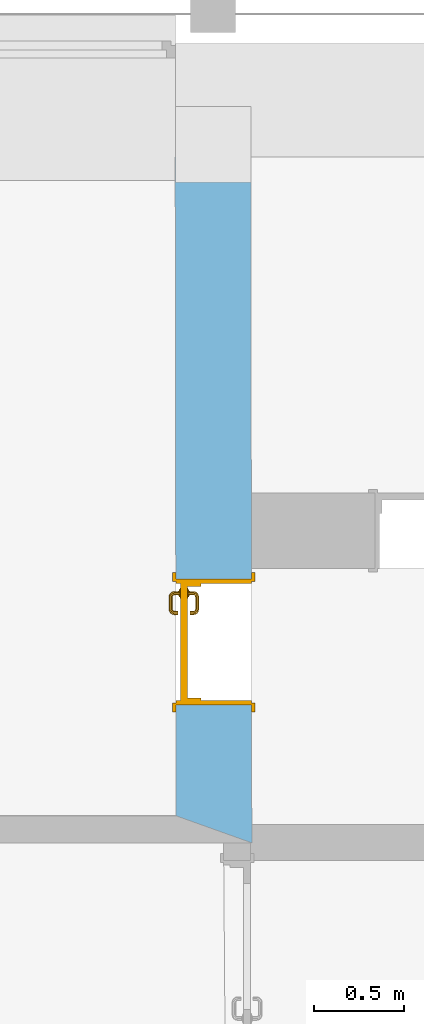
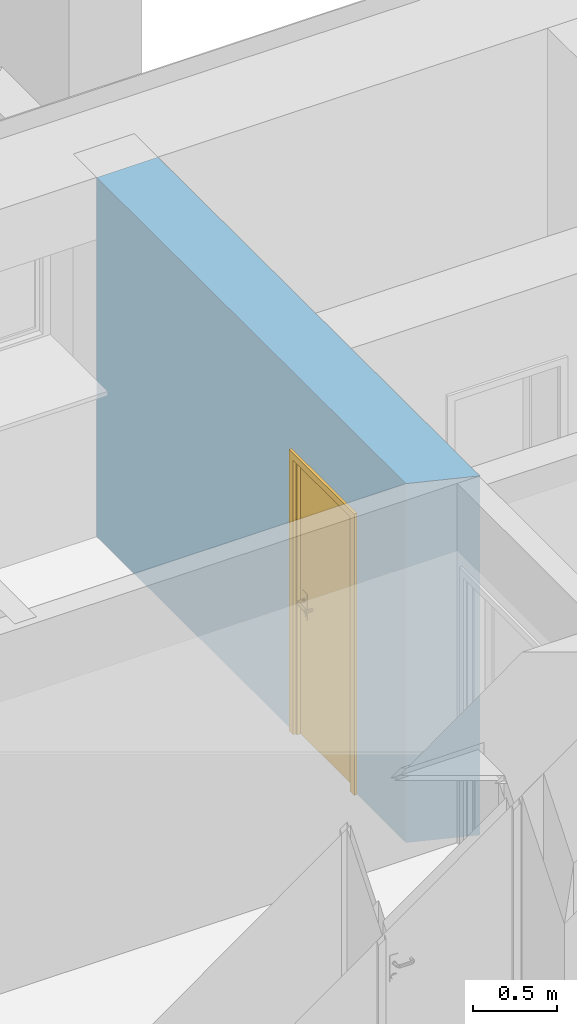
# One storey, part 46 of 127: 1 door, 1 opening, plus 1 element that does not belong to this part.
"""IFC2X3 building model written with IfcOpenShell, lengths in millimetres."""

from ifc_helpers import new_model, entity, si_unit, converted_unit, derived_unit, money_unit, direction, frame, origin_with_axes, origin_2d_with_axis, place, context, subcontext, project, spatial, polyline, rectangle, outline, extrude, open_shell, faceted_brep, surface_model, material, layer, layer_set, layer_usage, type_object, element, fill, save


model = new_model("IFC2X3")

# Units and contexts
model_context = context("Model", 3, precision=1e-05, world=origin_with_axes(), true_north=direction((0.0, 1.0)))
body_context = subcontext(model_context, "Body", "Model", "MODEL_VIEW")
ifc_project = project(units=[si_unit("LENGTHUNIT", "METRE", prefix="MILLI"), si_unit("AREAUNIT", "SQUARE_METRE"), si_unit("VOLUMEUNIT", "CUBIC_METRE"), converted_unit("PLANEANGLEUNIT", "DEGREE", entity("IfcPlaneAngleMeasure", 0.0174532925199), si_unit("PLANEANGLEUNIT", "RADIAN"), dimensions=[0, 0, 0, 0, 0, 0, 0]), si_unit("SOLIDANGLEUNIT", "STERADIAN"), money_unit("EUR"), converted_unit("TIMEUNIT", "Year", entity("IfcTimeMeasure", 31556926.0), si_unit("TIMEUNIT", "SECOND"), dimensions=[0, 0, 1, 0, 0, 0, 0]), si_unit("MASSUNIT", "GRAM", prefix="KILO"), si_unit("THERMODYNAMICTEMPERATUREUNIT", "DEGREE_CELSIUS"), si_unit("LUMINOUSINTENSITYUNIT", "LUMEN"), si_unit("ENERGYUNIT", "JOULE", prefix="MEGA"), derived_unit("THERMALCONDUCTANCEUNIT", [(si_unit("POWERUNIT", "WATT"), 1), (si_unit("LENGTHUNIT", "METRE"), -1), (si_unit("THERMODYNAMICTEMPERATUREUNIT", "KELVIN"), -1)]), derived_unit("SPECIFICHEATCAPACITYUNIT", [(si_unit("ENERGYUNIT", "JOULE"), 1), (si_unit("MASSUNIT", "GRAM", prefix="KILO"), -1), (si_unit("THERMODYNAMICTEMPERATUREUNIT", "KELVIN"), -1)]), derived_unit("MASSDENSITYUNIT", [(si_unit("MASSUNIT", "GRAM", prefix="KILO"), 1), (si_unit("VOLUMEUNIT", "CUBIC_METRE"), -1)])], contexts=[model_context])

# Site, building, storey
site_placement = place(None, origin_with_axes())
site = spatial("IfcSite", under=ifc_project, at=site_placement, Name="Site", CompositionType="ELEMENT")
building_placement = place(site_placement, origin_with_axes())
building = spatial("IfcBuilding", under=site, at=building_placement, Name="Building", CompositionType="ELEMENT")
storey_placement = place(building_placement, origin_with_axes())
storey = spatial("IfcBuildingStorey", under=building, at=storey_placement, Name="1 KORRUS", CompositionType="ELEMENT", Elevation=0.0)

# Wall, opening, door
ifc_material = material(Name="Kivi -Ol.Olev Konstruktsioon")
ifc_layer = layer(ifc_material, 420.0, ventilated="UNKNOWN")
ifc_layer_set = layer_set([ifc_layer], Name="ol.olev ss 420")
ifc_layer_usage = layer_usage(ifc_layer_set, "AXIS2", "POSITIVE", 0.0)
wall_type = type_object("IfcWallType", Name="SW - 036", PredefinedType="NOTDEFINED")
wall_placement = place(storey_placement, frame((61158.906204, 42953.8718916, 0.0), z_axis=(0.0, 0.0, 1.0), x_axis=(-0.00143580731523, 0.999998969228, 0.0)))
wall = element("IfcWallStandardCase", 1, at=wall_placement, inside=storey, type_object=wall_type, material=ifc_layer_usage, Name="ol.olev ss 420", context=body_context, shape_type="SweptSolid", body=[
    extrude(outline(polyline([(-150.000154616, 0.0), (3657.54740359, 0.0), (3658.25491958, 420.0), (0.603039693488, 420.0), (-150.000154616, 0.0)])), origin_with_axes(), (0.0, 0.0, 1.0), 2600.0),
])
opening_placement = place(wall_placement, frame((964.921937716, 1.13686837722e-10, 0.0), z_axis=(0.0, 0.0, 1.0), x_axis=(1.0, 0.0, 0.0)))
opening = element("IfcOpeningElement", 2, at=opening_placement, cuts=wall, Name="Siseuks * Door 22", context=body_context, shape_type="SweptSolid", body=[
    extrude(rectangle(XDim=699.999999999, YDim=2000.0, at=origin_2d_with_axis()), frame((9.09494701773e-10, 280.0, 1000.0), z_axis=(0.0, -1.0, 0.0), x_axis=(-1.0, 0.0, 0.0)), (0.0, 0.0, 1.0), 700.0),
    extrude(rectangle(XDim=700.000000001, YDim=2000.0, at=origin_2d_with_axis()), frame((-9.09494701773e-10, 280.0, 1000.0), z_axis=(0.0, 1.0, 0.0), x_axis=(-1.0, 0.0, 0.0)), (0.0, 0.0, 1.0), 560.0),
    extrude(rectangle(XDim=774.0, YDim=2037.0, at=origin_2d_with_axis()), frame((0.0, 420.0, 1018.5), z_axis=(0.0, 1.0, 0.0), x_axis=(-1.0, 0.0, 0.0)), (0.0, 0.0, 1.0), 700.0),
    extrude(rectangle(XDim=774.000000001, YDim=2037.0, at=origin_2d_with_axis()), frame((9.09494701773e-10, 0.0, 1018.5), z_axis=(0.0, -1.0, 0.0), x_axis=(-1.0, 0.0, 0.0)), (0.0, 0.0, 1.0), 700.0),
])
door_style = type_object("IfcDoorStyle", Name="SU-B120B   700×2\xa0000", ConstructionType="NOTDEFINED", OperationType="SINGLE_SWING_LEFT", ParameterTakesPrecedence=False, Sizeable=False)
door_placement = place(opening_placement, frame((-350.0, -1.13686837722e-10, 0.0), z_axis=(0.0, 0.0, 1.0), x_axis=(1.0, 0.0, 0.0)))
door = element("IfcDoor", 3, at=door_placement, inside=storey, type_object=door_style, Name="Siseuks * Door 22", OverallHeight=2000.0, OverallWidth=700.0, context=body_context, shape_type="SurfaceModel", body=[
    faceted_brep([(700.000000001, 395.0, 0.0), (675.0, 395.0, 0.0), (675.000000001, 420.0, 0.0), (700.000000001, 420.0, 0.0), (700.000000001, 395.0, 2000.0), (675.0, 395.0, 1975.0), (675.000000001, 420.0, 1975.0), (700.000000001, 420.0, 2000.0)], [[[0, 1, 2, 3]], [[0, 4, 5, 1]], [[1, 5, 6, 2]], [[3, 2, 6, 7]], [[4, 0, 3, 7]], [[5, 4, 7, 6]]]),
    faceted_brep([(0.0, 395.0, 2000.0), (25.0000000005, 395.0, 1975.0), (24.9999999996, 420.0, 1975.0), (0.0, 420.0, 2000.0), (0.0, 395.0, 0.0), (25.0000000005, 395.0, 0.0), (24.9999999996, 420.0, 0.0), (0.0, 420.0, 0.0)], [[[0, 1, 2, 3]], [[0, 4, 5, 1]], [[1, 5, 6, 2]], [[3, 2, 6, 7]], [[4, 0, 3, 7]], [[5, 4, 7, 6]]]),
    faceted_brep([(675.0, 395.0, 1975.0), (25.0000000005, 395.0, 1975.0), (24.9999999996, 420.0, 1975.0), (675.000000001, 420.0, 1975.0), (700.000000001, 395.0, 2000.0), (0.0, 395.0, 2000.0), (0.0, 420.0, 2000.0), (700.000000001, 420.0, 2000.0)], [[[0, 1, 2, 3]], [[0, 4, 5, 1]], [[1, 5, 6, 2]], [[3, 2, 6, 7]], [[4, 0, 3, 7]], [[5, 4, 7, 6]]]),
    faceted_brep([(737.000000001, 439.0, 0.0), (737.000000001, 420.0, 0.0), (687.0, 420.0, 0.0), (687.0, 439.0, 0.0), (737.000000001, 439.0, 2037.0), (737.000000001, 420.0, 2037.0), (687.0, 420.0, 1987.0), (687.0, 439.0, 1987.0)], [[[0, 1, 2, 3]], [[4, 5, 1, 0]], [[1, 5, 6, 2]], [[3, 2, 6, 7]], [[0, 3, 7, 4]], [[7, 6, 5, 4]]]),
    faceted_brep([(-36.9999999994, 439.0, 2037.0), (-37.0000000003, 420.0, 2037.0), (13.0000000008, 420.0, 1987.0), (13.0000000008, 439.0, 1987.0), (-36.9999999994, 439.0, 0.0), (-37.0000000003, 420.0, 0.0), (13.0000000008, 420.0, 0.0), (13.0000000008, 439.0, 0.0)], [[[0, 1, 2, 3]], [[4, 5, 1, 0]], [[1, 5, 6, 2]], [[3, 2, 6, 7]], [[0, 3, 7, 4]], [[7, 6, 5, 4]]]),
    faceted_brep([(737.000000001, 439.0, 2037.0), (737.000000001, 420.0, 2037.0), (687.0, 420.0, 1987.0), (687.0, 439.0, 1987.0), (-36.9999999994, 439.0, 2037.0), (-37.0000000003, 420.0, 2037.0), (13.0000000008, 420.0, 1987.0), (13.0000000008, 439.0, 1987.0)], [[[0, 1, 2, 3]], [[4, 5, 1, 0]], [[1, 5, 6, 2]], [[3, 2, 6, 7]], [[0, 3, 7, 4]], [[7, 6, 5, 4]]]),
    faceted_brep([(700.0, 280.0, 0.0), (700.0, 0.0, 0.0), (675.0, 0.0, 0.0), (675.0, 280.0, 0.0), (700.0, 280.0, 2000.0), (700.0, 0.0, 2000.0), (675.0, 0.0, 1975.0), (675.0, 280.0, 1975.0)], [[[0, 1, 2, 3]], [[4, 5, 1, 0]], [[1, 5, 6, 2]], [[3, 2, 6, 7]], [[0, 3, 7, 4]], [[7, 6, 5, 4]]]),
    faceted_brep([(0.0, 280.0, 2000.0), (9.09494701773e-10, 0.0, 2000.0), (25.0000000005, 0.0, 1975.0), (25.0000000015, 280.0, 1975.0), (0.0, 280.0, 0.0), (9.09494701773e-10, 0.0, 0.0), (25.0000000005, 0.0, 0.0), (25.0000000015, 280.0, 0.0)], [[[0, 1, 2, 3]], [[4, 5, 1, 0]], [[1, 5, 6, 2]], [[3, 2, 6, 7]], [[0, 3, 7, 4]], [[7, 6, 5, 4]]]),
    faceted_brep([(700.0, 280.0, 2000.0), (700.0, 0.0, 2000.0), (675.0, 0.0, 1975.0), (675.0, 280.0, 1975.0), (0.0, 280.0, 2000.0), (9.09494701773e-10, 0.0, 2000.0), (25.0000000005, 0.0, 1975.0), (25.0000000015, 280.0, 1975.0)], [[[0, 1, 2, 3]], [[4, 5, 1, 0]], [[1, 5, 6, 2]], [[3, 2, 6, 7]], [[0, 3, 7, 4]], [[7, 6, 5, 4]]]),
    faceted_brep([(737.000000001, -19.0000000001, 0.0), (687.0, -19.0, 0.0), (687.0, 0.0, 0.0), (737.000000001, 0.0, 0.0), (737.000000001, -19.0000000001, 2037.0), (687.0, -19.0, 1987.0), (687.0, 0.0, 1987.0), (737.000000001, 0.0, 2037.0)], [[[0, 1, 2, 3]], [[0, 4, 5, 1]], [[1, 5, 6, 2]], [[3, 2, 6, 7]], [[4, 0, 3, 7]], [[5, 4, 7, 6]]]),
    faceted_brep([(-36.9999999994, -19.0000000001, 2037.0), (12.9999999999, -19.0000000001, 1987.0), (12.9999999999, 0.0, 1987.0), (-36.9999999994, 0.0, 2037.0), (-36.9999999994, -19.0000000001, 0.0), (12.9999999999, -19.0000000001, 0.0), (12.9999999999, 0.0, 0.0), (-36.9999999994, 0.0, 0.0)], [[[0, 1, 2, 3]], [[0, 4, 5, 1]], [[1, 5, 6, 2]], [[3, 2, 6, 7]], [[4, 0, 3, 7]], [[5, 4, 7, 6]]]),
    faceted_brep([(737.000000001, -19.0000000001, 2037.0), (687.0, -19.0, 1987.0), (687.0, 0.0, 1987.0), (737.000000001, 0.0, 2037.0), (-36.9999999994, -19.0000000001, 2037.0), (12.9999999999, -19.0000000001, 1987.0), (12.9999999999, 0.0, 1987.0), (-36.9999999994, 0.0, 2037.0)], [[[0, 1, 2, 3]], [[0, 4, 5, 1]], [[1, 5, 6, 2]], [[3, 2, 6, 7]], [[4, 0, 3, 7]], [[5, 4, 7, 6]]]),
    faceted_brep([(660.000000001, 355.0, 0.0), (660.000000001, 280.0, 0.0), (660.000000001, 280.0, 1960.0), (660.000000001, 355.0, 1960.0), (672.0, 355.0, 0.0), (672.0, 395.0, 0.0), (700.000000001, 395.0, 0.0), (700.0, 280.0, 0.0), (700.0, 280.0, 1960.0), (672.0, 355.0, 1960.0), (700.000000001, 395.0, 1960.0), (672.0, 395.0, 1960.0)], [[[0, 1, 2, 3]], [[4, 5, 6, 7, 1, 0]], [[1, 7, 8, 2]], [[9, 3, 2, 8, 10, 11]], [[9, 4, 0, 3]], [[11, 5, 4, 9]], [[11, 10, 6, 5]], [[6, 10, 8, 7]]]),
    faceted_brep([(28.0000000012, 355.0, 1960.0), (28.0000000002, 395.0, 1960.0), (0.0, 395.0, 1960.0), (0.0, 280.0, 1960.0), (40.0, 280.0, 1960.0), (40.0000000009, 355.0, 1960.0), (28.0000000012, 355.0, 0.0), (28.0000000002, 395.0, 0.0), (0.0, 395.0, 0.0), (0.0, 280.0, 0.0), (40.0, 280.0, 0.0), (40.0000000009, 355.0, 0.0)], [[[0, 1, 2, 3, 4, 5]], [[0, 6, 7, 1]], [[7, 8, 2, 1]], [[2, 8, 9, 3]], [[3, 9, 10, 4]], [[5, 4, 10, 11]], [[5, 11, 6, 0]], [[6, 11, 10, 9, 8, 7]]]),
    faceted_brep([(672.0, 395.0, 1972.0), (28.0000000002, 395.0, 1972.0), (28.0000000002, 395.0, 1960.0), (0.0, 395.0, 1960.0), (0.0, 395.0, 2000.0), (700.000000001, 395.0, 2000.0), (700.000000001, 395.0, 1960.0), (672.0, 395.0, 1960.0), (672.0, 355.0, 1972.0), (28.0000000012, 355.0, 1972.0), (28.0000000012, 355.0, 1960.0), (40.0000000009, 355.0, 1960.0), (40.0, 280.0, 1960.0), (0.0, 280.0, 1960.0), (0.0, 280.0, 2000.0), (700.0, 280.0, 2000.0), (700.0, 280.0, 1960.0), (672.0, 355.0, 1960.0), (660.000000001, 280.0, 1960.0), (660.000000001, 355.0, 1960.0)], [[[0, 1, 2, 3, 4, 5, 6, 7]], [[0, 8, 9, 1]], [[1, 9, 10, 2]], [[10, 11, 12, 13, 3, 2]], [[4, 3, 13, 14]], [[5, 4, 14, 15]], [[6, 5, 15, 16]], [[17, 7, 6, 16, 18, 19]], [[7, 17, 8, 0]], [[10, 9, 8, 17, 19, 11]], [[19, 18, 12, 11]], [[12, 18, 16, 15, 14, 13]]]),
    faceted_brep([(650.500000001, 355.0, 1060.0), (593.5, 355.0, 1060.0), (593.5, 352.0, 1060.0), (650.5, 352.0, 1060.0), (650.500000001, 355.0, 870.0), (593.5, 355.0, 870.0), (593.5, 352.0, 870.0), (650.5, 352.0, 870.0)], [[[0, 1, 2, 3]], [[0, 4, 5, 1]], [[1, 5, 6, 2]], [[3, 2, 6, 7]], [[4, 0, 3, 7]], [[5, 4, 7, 6]]]),
    surface_model("IfcShellBasedSurfaceModel", [(612.0, 342.0, 1000.0), (614.928932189, 342.0, 992.928932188), (614.928932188, 322.696439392, 992.928932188), (612.0, 322.984914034, 1000.0), (622.0, 342.0, 990.0), (621.999999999, 322.0, 990.0), (613.816790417, 317.105325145, 992.928932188), (611.057796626, 318.248137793, 1000.0), (614.928932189, 342.0, 1007.07106781), (614.928932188, 322.696439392, 1007.07106781), (629.071067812, 342.0, 992.928932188), (629.071067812, 321.303560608, 992.928932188), (620.47759065, 314.346331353, 990.0), (611.044179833, 312.955820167, 992.928932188), (608.932537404, 315.067462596, 1000.0), (613.816790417, 317.105325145, 1007.07106781), (622.0, 342.0, 1010.0), (621.999999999, 322.0, 1010.0), (632.000000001, 342.0, 1000.0), (632.0, 321.015085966, 1000.0), (627.138390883, 311.58733756, 992.928932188), (616.142135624, 307.857864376, 990.0), (606.894674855, 310.183209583, 992.928932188), (605.751862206, 312.942203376, 1000.0), (611.044179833, 312.955820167, 1007.07106781), (620.47759065, 314.346331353, 1010.0), (629.071067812, 342.0, 1007.07106781), (629.071067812, 321.303560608, 1007.07106781), (629.897384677, 310.444524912, 1000.0), (621.240091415, 302.759908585, 992.928932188), (609.653668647, 303.52240935, 990.0), (601.303560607, 309.071067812, 992.928932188), (601.015085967, 312.0, 1000.0), (606.894674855, 310.183209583, 1007.07106781), (616.142135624, 307.857864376, 1010.0), (627.138390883, 311.58733756, 1007.07106781), (623.351733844, 300.648266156, 1000.0), (612.41266244, 296.861609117, 992.928932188), (602.0, 302.0, 990.0), (532.696439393, 309.071067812, 992.928932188), (532.984914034, 312.0, 1000.0), (601.303560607, 309.071067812, 1007.07106781), (609.653668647, 303.52240935, 1010.0), (621.240091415, 302.759908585, 1007.07106781), (613.555475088, 294.102615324, 1000.0), (602.696439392, 294.928932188, 992.928932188), (532.0, 302.0, 990.0), (527.105325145, 310.183209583, 992.928932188), (528.248137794, 312.942203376, 1000.0), (532.696439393, 309.071067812, 1007.07106781), (602.0, 302.0, 1010.0), (612.41266244, 296.861609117, 1007.07106781), (602.984914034, 292.0, 1000.0), (531.303560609, 294.928932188, 992.928932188), (524.346331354, 303.52240935, 990.0), (522.955820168, 312.955820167, 992.928932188), (525.067462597, 315.067462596, 1000.0), (527.105325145, 310.183209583, 1007.07106781), (532.0, 302.0, 1010.0), (602.696439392, 294.928932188, 1007.07106781), (531.015085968, 292.0, 1000.0), (521.58733756, 296.861609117, 992.928932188), (517.857864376, 307.857864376, 990.0), (520.183209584, 317.105325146, 992.928932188), (522.942203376, 318.248137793, 1000.0), (522.955820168, 312.955820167, 1007.07106781), (524.346331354, 303.52240935, 1010.0), (531.303560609, 294.928932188, 1007.07106781), (520.444524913, 294.102615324, 1000.0), (512.759908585, 302.759908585, 992.928932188), (513.52240935, 314.346331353, 990.0), (519.071067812, 322.696439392, 992.928932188), (522.0, 322.984914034, 1000.0), (520.183209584, 317.105325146, 1007.07106781), (517.857864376, 307.857864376, 1010.0), (521.58733756, 296.861609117, 1007.07106781), (510.648266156, 300.648266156, 1000.0), (506.861609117, 311.58733756, 992.928932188), (512.000000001, 322.0, 990.0), (519.071067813, 342.0, 992.928932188), (522.0, 342.0, 1000.0), (519.071067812, 322.696439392, 1007.07106781), (513.52240935, 314.346331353, 1010.0), (512.759908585, 302.759908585, 1007.07106781), (504.102615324, 310.444524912, 1000.0), (504.928932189, 321.303560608, 992.928932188), (512.000000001, 342.0, 990.0), (504.928932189, 342.0, 992.928932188), (502.0, 342.0, 1000.0), (504.928932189, 342.0, 1007.07106781), (512.000000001, 342.0, 1010.0), (519.071067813, 342.0, 1007.07106781), (512.000000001, 322.0, 1010.0), (506.861609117, 311.58733756, 1007.07106781), (501.999999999, 321.015085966, 1000.0), (504.928932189, 321.303560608, 1007.07106781)], [open_shell([[[0, 1, 2, 3]], [[1, 4, 5, 2]], [[3, 2, 6, 7]], [[8, 0, 3, 9]], [[4, 10, 11, 5]], [[2, 5, 12, 6]], [[7, 6, 13, 14]], [[9, 3, 7, 15]], [[16, 8, 9, 17]], [[10, 18, 19, 11]], [[5, 11, 20, 12]], [[6, 12, 21, 13]], [[14, 13, 22, 23]], [[15, 7, 14, 24]], [[17, 9, 15, 25]], [[26, 16, 17, 27]], [[18, 26, 27, 19]], [[11, 19, 28, 20]], [[12, 20, 29, 21]], [[13, 21, 30, 22]], [[23, 22, 31, 32]], [[24, 14, 23, 33]], [[25, 15, 24, 34]], [[27, 17, 25, 35]], [[19, 27, 35, 28]], [[20, 28, 36, 29]], [[21, 29, 37, 30]], [[22, 30, 38, 31]], [[32, 31, 39, 40]], [[33, 23, 32, 41]], [[34, 24, 33, 42]], [[35, 25, 34, 43]], [[28, 35, 43, 36]], [[29, 36, 44, 37]], [[30, 37, 45, 38]], [[31, 38, 46, 39]], [[40, 39, 47, 48]], [[41, 32, 40, 49]], [[42, 33, 41, 50]], [[43, 34, 42, 51]], [[36, 43, 51, 44]], [[37, 44, 52, 45]], [[38, 45, 53, 46]], [[39, 46, 54, 47]], [[48, 47, 55, 56]], [[49, 40, 48, 57]], [[50, 41, 49, 58]], [[51, 42, 50, 59]], [[44, 51, 59, 52]], [[45, 52, 60, 53]], [[46, 53, 61, 54]], [[47, 54, 62, 55]], [[56, 55, 63, 64]], [[57, 48, 56, 65]], [[58, 49, 57, 66]], [[59, 50, 58, 67]], [[52, 59, 67, 60]], [[53, 60, 68, 61]], [[54, 61, 69, 62]], [[55, 62, 70, 63]], [[64, 63, 71, 72]], [[65, 56, 64, 73]], [[66, 57, 65, 74]], [[67, 58, 66, 75]], [[60, 67, 75, 68]], [[61, 68, 76, 69]], [[62, 69, 77, 70]], [[63, 70, 78, 71]], [[72, 71, 79, 80]], [[73, 64, 72, 81]], [[74, 65, 73, 82]], [[75, 66, 74, 83]], [[68, 75, 83, 76]], [[69, 76, 84, 77]], [[70, 77, 85, 78]], [[71, 78, 86, 79]], [[80, 79, 86, 87, 88, 89, 90, 91]], [[81, 72, 80, 91]], [[82, 73, 81, 92]], [[83, 74, 82, 93]], [[76, 83, 93, 84]], [[77, 84, 94, 85]], [[78, 85, 87, 86]], [[85, 94, 88, 87]], [[94, 95, 89, 88]], [[95, 92, 90, 89]], [[92, 81, 91, 90]], [[93, 82, 92, 95]], [[84, 93, 95, 94]]])]),
    faceted_brep([(611.607695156, 342.0, 994.0), (610.0, 342.0, 1000.0), (609.000000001, 352.0, 1000.0), (610.741669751, 352.0, 993.5), (616.000000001, 342.0, 989.607695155), (622.0, 342.0, 988.0), (628.000000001, 342.0, 989.607695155), (632.392304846, 342.0, 994.0), (634.000000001, 342.0, 1000.0), (632.392304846, 342.0, 1006.0), (628.000000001, 342.0, 1010.39230485), (622.0, 342.0, 1012.0), (616.000000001, 342.0, 1010.39230485), (611.607695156, 342.0, 1006.0), (610.741669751, 352.0, 1006.5), (615.5, 352.0, 1011.25833025), (622.0, 352.0, 1013.0), (628.5, 352.0, 1011.25833025), (633.25833025, 352.0, 1006.5), (635.000000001, 352.0, 1000.0), (633.25833025, 352.0, 993.5), (628.5, 352.0, 988.741669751), (622.0, 352.0, 987.0), (615.5, 352.0, 988.741669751)], [[[0, 1, 2, 3]], [[1, 0, 4, 5, 6, 7, 8, 9, 10, 11, 12, 13]], [[1, 13, 14, 2]], [[2, 14, 15, 16, 17, 18, 19, 20, 21, 22, 23, 3]], [[4, 0, 3, 23]], [[5, 4, 23, 22]], [[6, 5, 22, 21]], [[7, 6, 21, 20]], [[8, 7, 20, 19]], [[9, 8, 19, 18]], [[10, 9, 18, 17]], [[11, 10, 17, 16]], [[12, 11, 16, 15]], [[13, 12, 15, 14]]]),
    faceted_brep([(604.679491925, 348.0, 895.0), (602.000000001, 348.0, 905.0), (600.000000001, 352.0, 905.0), (602.947441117, 352.0, 894.0), (612.0, 348.0, 887.679491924), (622.0, 348.0, 885.0), (632.000000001, 348.0, 887.679491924), (639.320508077, 348.0, 895.0), (642.000000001, 348.0, 905.0), (639.320508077, 348.0, 915.0), (632.000000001, 348.0, 922.320508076), (622.0, 348.0, 925.0), (612.0, 348.0, 922.320508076), (604.679491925, 348.0, 915.0), (602.947441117, 352.0, 916.0), (611.0, 352.0, 924.052558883), (622.0, 352.0, 927.0), (633.0, 352.0, 924.052558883), (641.052558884, 352.0, 916.0), (644.000000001, 352.0, 905.0), (641.052558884, 352.0, 894.0), (633.0, 352.0, 885.947441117), (622.0, 352.0, 883.0), (611.0, 352.0, 885.947441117)], [[[0, 1, 2, 3]], [[1, 0, 4, 5, 6, 7, 8, 9, 10, 11, 12, 13]], [[1, 13, 14, 2]], [[2, 14, 15, 16, 17, 18, 19, 20, 21, 22, 23, 3]], [[4, 0, 3, 23]], [[5, 4, 23, 22]], [[6, 5, 22, 21]], [[7, 6, 21, 20]], [[8, 7, 20, 19]], [[9, 8, 19, 18]], [[10, 9, 18, 17]], [[11, 10, 17, 16]], [[12, 11, 16, 15]], [[13, 12, 15, 14]]]),
    faceted_brep([(617.050252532, 346.0, 909.050252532), (615.000000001, 346.0, 914.0), (614.0, 348.0, 914.0), (616.343145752, 348.0, 908.343145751), (622.0, 346.0, 907.0), (626.949747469, 346.0, 909.050252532), (629.0, 346.0, 914.0), (626.949747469, 346.0, 918.949747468), (622.0, 346.0, 921.0), (617.050252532, 346.0, 918.949747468), (616.343145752, 348.0, 919.656854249), (622.0, 348.0, 922.0), (627.656854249, 348.0, 919.656854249), (630.0, 348.0, 914.0), (627.656854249, 348.0, 908.343145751), (622.0, 348.0, 906.0)], [[[0, 1, 2, 3]], [[1, 0, 4, 5, 6, 7, 8, 9]], [[1, 9, 10, 2]], [[2, 10, 11, 12, 13, 14, 15, 3]], [[4, 0, 3, 15]], [[5, 4, 15, 14]], [[6, 5, 14, 13]], [[7, 6, 13, 12]], [[8, 7, 12, 11]], [[9, 8, 11, 10]]]),
    faceted_brep([(650.500000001, 395.0, 1060.0), (650.500000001, 398.0, 1060.0), (593.5, 398.0, 1060.0), (593.5, 395.0, 1060.0), (650.500000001, 395.0, 870.0), (650.500000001, 398.0, 870.0), (593.5, 398.0, 870.0), (593.5, 395.0, 870.0)], [[[0, 1, 2, 3]], [[4, 5, 1, 0]], [[1, 5, 6, 2]], [[3, 2, 6, 7]], [[0, 3, 7, 4]], [[7, 6, 5, 4]]]),
    surface_model("IfcShellBasedSurfaceModel", [(612.000000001, 408.0, 1000.0), (612.000000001, 427.015085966, 1000.0), (614.928932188, 427.303560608, 992.928932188), (614.928932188, 408.0, 992.928932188), (614.928932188, 408.0, 1007.07106781), (614.928932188, 427.303560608, 1007.07106781), (611.057796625, 431.751862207, 1000.0), (613.816790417, 432.894674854, 992.928932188), (622.0, 428.0, 990.0), (622.0, 408.0, 990.0), (622.0, 408.0, 1010.0), (622.0, 428.0, 1010.0), (613.816790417, 432.894674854, 1007.07106781), (608.932537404, 434.932537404, 1000.0), (611.044179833, 437.044179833, 992.928932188), (620.477590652, 435.653668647, 990.0), (629.071067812, 428.696439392, 992.928932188), (629.071067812, 408.0, 992.928932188), (629.071067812, 408.0, 1007.07106781), (629.071067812, 428.696439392, 1007.07106781), (620.477590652, 435.653668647, 1010.0), (611.044179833, 437.044179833, 1007.07106781), (605.751862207, 437.057796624, 1000.0), (606.894674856, 439.816790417, 992.928932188), (616.142135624, 442.142135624, 990.0), (627.138390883, 438.41266244, 992.928932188), (632.000000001, 428.984914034, 1000.0), (632.000000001, 408.0, 1000.0), (627.138390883, 438.41266244, 1007.07106781), (616.142135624, 442.142135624, 1010.0), (606.894674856, 439.816790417, 1007.07106781), (601.015085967, 438.0, 1000.0), (601.303560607, 440.928932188, 992.928932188), (609.653668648, 446.47759065, 990.0), (621.240091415, 447.240091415, 992.928932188), (629.897384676, 439.555475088, 1000.0), (621.240091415, 447.240091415, 1007.07106781), (609.653668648, 446.47759065, 1010.0), (601.303560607, 440.928932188, 1007.07106781), (532.984914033, 438.0, 1000.0), (532.696439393, 440.928932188, 992.928932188), (602.0, 448.0, 990.0), (612.41266244, 453.138390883, 992.928932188), (623.351733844, 449.351733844, 1000.0), (612.41266244, 453.138390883, 1007.07106781), (602.0, 448.0, 1010.0), (532.696439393, 440.928932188, 1007.07106781), (528.248137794, 437.057796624, 1000.0), (527.105325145, 439.816790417, 992.928932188), (532.0, 448.0, 990.0), (602.696439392, 455.071067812, 992.928932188), (613.555475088, 455.897384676, 1000.0), (602.696439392, 455.071067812, 1007.07106781), (532.0, 448.0, 1010.0), (527.105325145, 439.816790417, 1007.07106781), (525.067462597, 434.932537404, 1000.0), (522.955820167, 437.044179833, 992.928932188), (524.346331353, 446.47759065, 990.0), (531.303560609, 455.071067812, 992.928932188), (602.984914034, 458.0, 1000.0), (531.303560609, 455.071067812, 1007.07106781), (524.346331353, 446.47759065, 1010.0), (522.955820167, 437.044179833, 1007.07106781), (522.942203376, 431.751862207, 1000.0), (520.183209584, 432.894674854, 992.928932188), (517.857864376, 442.142135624, 990.0), (521.58733756, 453.138390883, 992.928932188), (531.015085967, 458.0, 1000.0), (521.58733756, 453.138390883, 1007.07106781), (517.857864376, 442.142135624, 1010.0), (520.183209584, 432.894674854, 1007.07106781), (522.000000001, 427.015085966, 1000.0), (519.071067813, 427.303560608, 992.928932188), (513.52240935, 435.653668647, 990.0), (512.759908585, 447.240091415, 992.928932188), (520.444524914, 455.897384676, 1000.0), (512.759908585, 447.240091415, 1007.07106781), (513.52240935, 435.653668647, 1010.0), (519.071067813, 427.303560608, 1007.07106781), (522.000000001, 408.0, 1000.0), (519.071067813, 408.0, 992.928932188), (512.000000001, 428.0, 990.0), (506.861609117, 438.41266244, 992.928932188), (510.648266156, 449.351733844, 1000.0), (506.861609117, 438.41266244, 1007.07106781), (512.000000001, 428.0, 1010.0), (519.071067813, 408.0, 1007.07106781), (512.000000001, 408.0, 1010.0), (504.928932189, 408.0, 1007.07106781), (502.000000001, 408.0, 1000.0), (504.928932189, 408.0, 992.928932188), (512.000000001, 408.0, 990.0), (504.928932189, 428.696439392, 992.928932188), (504.102615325, 439.555475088, 1000.0), (504.928932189, 428.696439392, 1007.07106781), (502.0, 428.984914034, 1000.0)], [open_shell([[[0, 1, 2, 3]], [[4, 5, 1, 0]], [[1, 6, 7, 2]], [[3, 2, 8, 9]], [[10, 11, 5, 4]], [[5, 12, 6, 1]], [[6, 13, 14, 7]], [[2, 7, 15, 8]], [[9, 8, 16, 17]], [[18, 19, 11, 10]], [[11, 20, 12, 5]], [[12, 21, 13, 6]], [[13, 22, 23, 14]], [[7, 14, 24, 15]], [[8, 15, 25, 16]], [[17, 16, 26, 27]], [[27, 26, 19, 18]], [[19, 28, 20, 11]], [[20, 29, 21, 12]], [[21, 30, 22, 13]], [[22, 31, 32, 23]], [[14, 23, 33, 24]], [[15, 24, 34, 25]], [[16, 25, 35, 26]], [[26, 35, 28, 19]], [[28, 36, 29, 20]], [[29, 37, 30, 21]], [[30, 38, 31, 22]], [[31, 39, 40, 32]], [[23, 32, 41, 33]], [[24, 33, 42, 34]], [[25, 34, 43, 35]], [[35, 43, 36, 28]], [[36, 44, 37, 29]], [[37, 45, 38, 30]], [[38, 46, 39, 31]], [[39, 47, 48, 40]], [[32, 40, 49, 41]], [[33, 41, 50, 42]], [[34, 42, 51, 43]], [[43, 51, 44, 36]], [[44, 52, 45, 37]], [[45, 53, 46, 38]], [[46, 54, 47, 39]], [[47, 55, 56, 48]], [[40, 48, 57, 49]], [[41, 49, 58, 50]], [[42, 50, 59, 51]], [[51, 59, 52, 44]], [[52, 60, 53, 45]], [[53, 61, 54, 46]], [[54, 62, 55, 47]], [[55, 63, 64, 56]], [[48, 56, 65, 57]], [[49, 57, 66, 58]], [[50, 58, 67, 59]], [[59, 67, 60, 52]], [[60, 68, 61, 53]], [[61, 69, 62, 54]], [[62, 70, 63, 55]], [[63, 71, 72, 64]], [[56, 64, 73, 65]], [[57, 65, 74, 66]], [[58, 66, 75, 67]], [[67, 75, 68, 60]], [[68, 76, 69, 61]], [[69, 77, 70, 62]], [[70, 78, 71, 63]], [[71, 79, 80, 72]], [[64, 72, 81, 73]], [[65, 73, 82, 74]], [[66, 74, 83, 75]], [[75, 83, 76, 68]], [[76, 84, 77, 69]], [[77, 85, 78, 70]], [[78, 86, 79, 71]], [[79, 86, 87, 88, 89, 90, 91, 80]], [[72, 80, 91, 81]], [[73, 81, 92, 82]], [[74, 82, 93, 83]], [[83, 93, 84, 76]], [[84, 94, 85, 77]], [[85, 87, 86, 78]], [[94, 88, 87, 85]], [[95, 89, 88, 94]], [[92, 90, 89, 95]], [[81, 91, 90, 92]], [[82, 92, 95, 93]], [[93, 95, 94, 84]]])]),
    faceted_brep([(611.607695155, 408.0, 994.0), (610.741669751, 398.0, 993.5), (609.0, 398.0, 1000.0), (610.0, 408.0, 1000.0), (616.000000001, 408.0, 989.607695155), (615.500000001, 398.0, 988.741669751), (622.000000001, 398.0, 987.0), (628.5, 398.0, 988.741669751), (633.258330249, 398.0, 993.5), (635.000000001, 398.0, 1000.0), (633.258330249, 398.0, 1006.5), (628.5, 398.0, 1011.25833025), (622.000000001, 398.0, 1013.0), (615.500000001, 398.0, 1011.25833025), (610.741669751, 398.0, 1006.5), (611.607695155, 408.0, 1006.0), (616.000000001, 408.0, 1010.39230485), (622.0, 408.0, 1012.0), (628.000000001, 408.0, 1010.39230485), (632.392304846, 408.0, 1006.0), (634.0, 408.0, 1000.0), (632.392304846, 408.0, 994.0), (628.000000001, 408.0, 989.607695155), (622.0, 408.0, 988.0)], [[[0, 1, 2, 3]], [[4, 5, 1, 0]], [[2, 1, 5, 6, 7, 8, 9, 10, 11, 12, 13, 14]], [[3, 2, 14, 15]], [[3, 15, 16, 17, 18, 19, 20, 21, 22, 23, 4, 0]], [[23, 6, 5, 4]], [[22, 7, 6, 23]], [[21, 8, 7, 22]], [[20, 9, 8, 21]], [[19, 10, 9, 20]], [[18, 11, 10, 19]], [[17, 12, 11, 18]], [[16, 13, 12, 17]], [[15, 14, 13, 16]]]),
    faceted_brep([(604.679491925, 402.0, 895.0), (602.947441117, 398.0, 894.0), (600.0, 398.0, 905.0), (602.000000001, 402.0, 905.0), (612.0, 402.0, 887.679491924), (611.000000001, 398.0, 885.947441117), (622.000000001, 398.0, 883.0), (633.0, 398.0, 885.947441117), (641.052558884, 398.0, 894.0), (644.0, 398.0, 905.0), (641.052558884, 398.0, 916.0), (633.0, 398.0, 924.052558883), (622.000000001, 398.0, 927.0), (611.000000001, 398.0, 924.052558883), (602.947441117, 398.0, 916.0), (604.679491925, 402.0, 915.0), (612.0, 402.0, 922.320508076), (622.0, 402.0, 925.0), (632.0, 402.0, 922.320508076), (639.320508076, 402.0, 915.0), (642.000000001, 402.0, 905.0), (639.320508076, 402.0, 895.0), (632.0, 402.0, 887.679491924), (622.0, 402.0, 885.0)], [[[0, 1, 2, 3]], [[4, 5, 1, 0]], [[2, 1, 5, 6, 7, 8, 9, 10, 11, 12, 13, 14]], [[3, 2, 14, 15]], [[3, 15, 16, 17, 18, 19, 20, 21, 22, 23, 4, 0]], [[23, 6, 5, 4]], [[22, 7, 6, 23]], [[21, 8, 7, 22]], [[20, 9, 8, 21]], [[19, 10, 9, 20]], [[18, 11, 10, 19]], [[17, 12, 11, 18]], [[16, 13, 12, 17]], [[15, 14, 13, 16]]]),
    faceted_brep([(617.050252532, 404.0, 909.050252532), (616.343145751, 402.0, 908.343145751), (614.0, 402.0, 914.0), (615.000000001, 404.0, 914.0), (622.000000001, 404.0, 907.0), (622.0, 402.0, 906.0), (627.65685425, 402.0, 908.343145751), (630.000000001, 402.0, 914.0), (627.65685425, 402.0, 919.656854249), (622.0, 402.0, 922.0), (616.343145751, 402.0, 919.656854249), (617.050252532, 404.0, 918.949747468), (622.000000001, 404.0, 921.0), (626.949747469, 404.0, 918.949747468), (629.000000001, 404.0, 914.0), (626.949747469, 404.0, 909.050252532)], [[[0, 1, 2, 3]], [[4, 5, 1, 0]], [[2, 1, 5, 6, 7, 8, 9, 10]], [[3, 2, 10, 11]], [[3, 11, 12, 13, 14, 15, 4, 0]], [[15, 6, 5, 4]], [[14, 7, 6, 15]], [[13, 8, 7, 14]], [[12, 9, 8, 13]], [[11, 10, 9, 12]]]),
    faceted_brep([(28.0000000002, 395.0, 0.0), (672.0, 395.0, 0.0), (672.0, 355.0, 0.0), (28.0000000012, 355.0, 0.0), (28.0000000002, 395.0, 1972.0), (672.0, 395.0, 1972.0), (672.0, 355.0, 1972.0), (28.0000000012, 355.0, 1972.0)], [[[0, 1, 2, 3]], [[0, 4, 5, 1]], [[1, 5, 6, 2]], [[3, 2, 6, 7]], [[4, 0, 3, 7]], [[5, 4, 7, 6]]]),
])
fill(opening, door)

save(model, "model.ifc")
